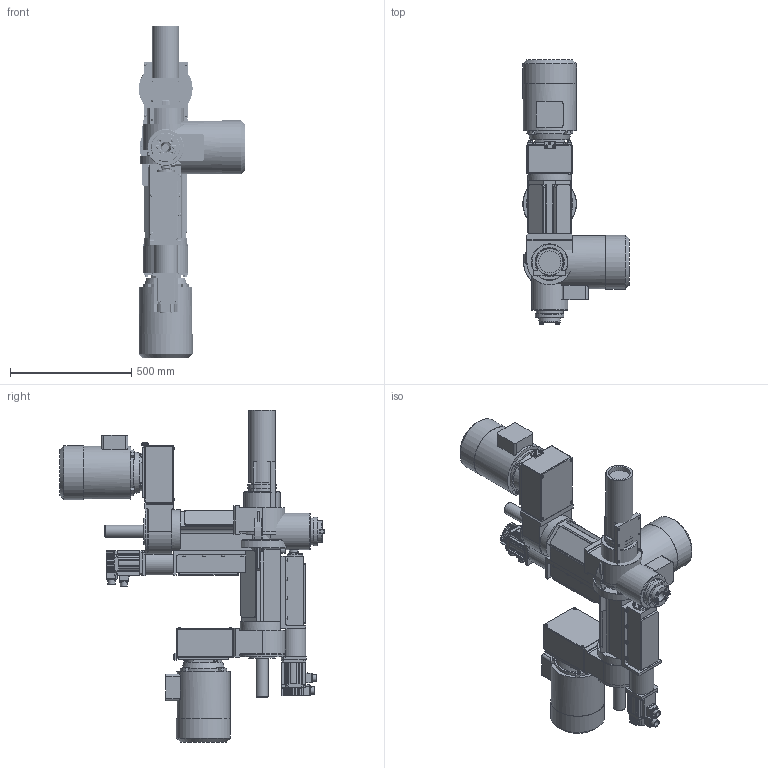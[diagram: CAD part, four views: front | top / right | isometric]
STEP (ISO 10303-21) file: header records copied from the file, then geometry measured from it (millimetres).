
FILE_DESCRIPTION( ( 'STEP AP203' ), '1' );
FILE_NAME( 'C:/Documents and Settings/Saverio/Desktop/disegni ironcad/unità transfer/UTV/FMT 440 CN.stp', '2013-11-29T15:35:38', ( ' ' ), ( ' ' ), 'XStep 1.0', ' ', ' ' );
FILE_SCHEMA( ( 'CONFIG_CONTROL_DESIGN' ) );
Length unit declared in the file: metre
Products named in the file (55): Assem1; Assem2; Assem3; 1; 2; 3; 4; 5; 6; 7; 8; 9; 10; 11; 12; 13; 14; 15; 16; 17; 18; 19; 20; 21; 22; 23; 24; 25; 26; 27; 28; 29; 30; 31; 32; 33; 34; 35; 36; 37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
Bounding box: 439 x 1087.3 x 1367.3 mm (x, y, z)
Volume: 112281208.5 mm3; surface area: 7013787.4 mm2
Topology: 156 solids, 156 shells, 4167 faces, 9519 edges, 6027 vertices
Faces by surface type: plane 2547, cylinder 888, cone 684, torus 30, bspline 18
Full cylindrical faces by diameter (mm): 5 x33, 5.5 x36, 6 x42, 6.5 x24, 6.637 x12, 6.647 x12, 7 x12, 8 x27, 8.366 x3, 8.5 x36, 9.87 x9, 10 x12, 10.25 x12, 10.5 x6, 12.85 x24, 14 x24, 23.5 x3, 24 x6, 25 x9, 25.3 x3, 27 x3, 28 x3, 28.557 x3, 30 x3, 31.4 x3, 32 x3, 33 x3, 36 x3, 36.4 x3, 38 x3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
Entity records: 39810 total; most frequent: CARTESIAN_POINT 7411, DIRECTION 6344, ORIENTED_EDGE 5550, EDGE_CURVE 2775, AXIS2_PLACEMENT_3D 2324, VERTEX_POINT 1927, EDGE_LOOP 1909, LINE 1696
